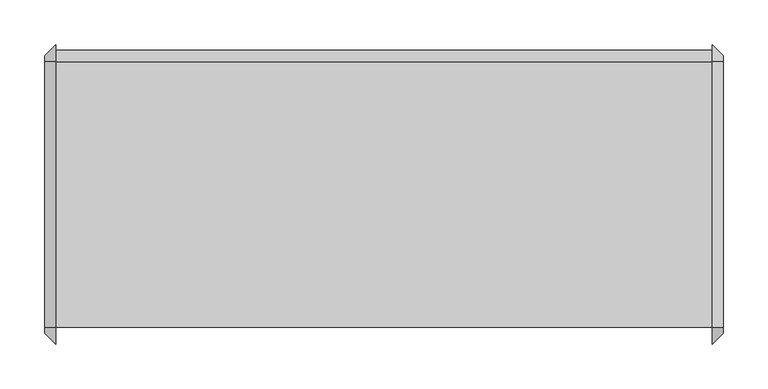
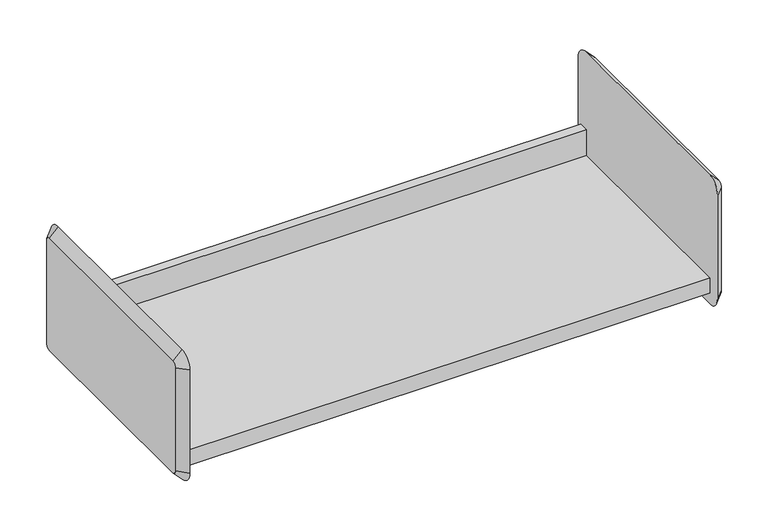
"""IFC4 building model written with IfcOpenShell, lengths in millimetres: furniture geometry."""

from ifc_helpers import new_model, si_unit, frame, origin, place, context, project, spatial, polyline, circle_curve, outline, extrude, source, transform, mapped, element, save
from ifc_brep_helpers import plane_surface, revolved_surface, advanced_brep


def furniture_05aa910b(model_context):
    return source(origin(), model_context, "Body", "SolidModel", [
        extrude(outline(polyline([(-136.525, 1415.67408), (161.925, 1415.67408), (161.925, 1453.77408), (174.625, 1453.77408), (174.625, 1450.59908), (165.1, 1450.59908), (165.1, 1412.49908), (-133.35, 1412.49908), (-133.35, 1393.44908), (-136.525, 1393.44908), (-136.525, 1415.67408)])), frame((-492.2420045, 0.0, 0.0), z_axis=(1.0, 0.0, 0.0), x_axis=(0.0, 1.0, 0.0)), (0.0, 0.0, 1.0), 736.6),
        advanced_brep(
        [(257.0579955, 161.925, 1555.37408), (257.0579955, -136.525, 1555.37408), (257.0579955, -142.875, 1549.02408), (257.0579955, -142.875, 1396.62408), (257.0579955, -136.525, 1390.27408), (257.0579955, 161.925, 1390.27408), (257.0579955, 168.275, 1396.62408), (257.0579955, 168.275, 1549.02408), (244.3579955, 161.925, 1568.07408), (244.3579955, 180.975, 1549.02408), (244.3579955, 180.975, 1396.62408), (244.3579955, 161.925, 1377.57408), (244.3579955, -136.525, 1377.57408), (244.3579955, -155.575, 1396.62408), (244.3579955, -155.575, 1549.02408), (244.3579955, -136.525, 1568.07408)],
        [
            (0, 1),
            (1, 2, circle_curve(frame((257.0579955, -136.525, 1549.02408), z_axis=(1.0, 2.0730084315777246e-12, -2.1529444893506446e-12), x_axis=(2.15291077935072e-12, 0.0, 1.0)), 6.35)),
            (2, 3),
            (3, 4, circle_curve(frame((257.0579955, -136.525, 1396.62408), z_axis=(1.0, 2.0596857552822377e-12, 2.06767936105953e-12), x_axis=(2.059647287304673e-12, -1.0, 0.0)), 6.35)),
            (4, 5),
            (5, 6, circle_curve(frame((257.0579955, 161.925, 1396.62408), z_axis=(1.0, 2.0889956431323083e-12, -2.0889956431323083e-12), x_axis=(-2.0890080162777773e-12, 0.0, -1.0)), 6.35)),
            (6, 7),
            (7, 0, circle_curve(frame((257.0579955, 161.925, 1549.02408), z_axis=(1.0, 2.0783375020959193e-12, 2.003730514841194e-12), x_axis=(-2.0783313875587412e-12, 1.0, 0.0)), 6.35)),
            (8, 9, circle_curve(frame((244.3579955, 161.925, 1549.02408), z_axis=(-1.0, -2.0783375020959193e-12, -2.003730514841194e-12), x_axis=(-2.0783313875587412e-12, 1.0, 0.0)), 19.05)),
            (9, 10),
            (10, 11, circle_curve(frame((244.3579955, 161.925, 1396.62408), z_axis=(-1.0, -2.0889956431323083e-12, 2.0889956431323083e-12), x_axis=(-2.0890080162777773e-12, 0.0, -1.0)), 19.05)),
            (11, 12),
            (12, 13, circle_curve(frame((244.3579955, -136.525, 1396.62408), z_axis=(-1.0, -2.0596857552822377e-12, -2.06767936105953e-12), x_axis=(2.059647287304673e-12, -1.0, 0.0)), 19.05)),
            (13, 14),
            (14, 15, circle_curve(frame((244.3579955, -136.525, 1549.02408), z_axis=(-1.0, -2.0730084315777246e-12, 2.1529444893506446e-12), x_axis=(2.15291077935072e-12, 0.0, 1.0)), 19.05)),
            (15, 8),
            (15, 1),
            (0, 8),
            (14, 2),
            (13, 3),
            (12, 4),
            (11, 5),
            (10, 6),
            (9, 7),
        ],
        [
            plane_surface(frame((257.0579955, 12.7, 1472.82408), z_axis=(1.0, 0.0, 0.0), x_axis=(0.0, -1.0, 0.0))),
            plane_surface(frame((244.3579955, 12.7, 1472.82408), z_axis=(-1.0, 0.0, 0.0), x_axis=(0.0, -1.0, 0.0))),
            plane_surface(frame((244.3579955, 12.7, 1568.07408), z_axis=(0.7071067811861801, 0.0, 0.707106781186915), x_axis=(0.0, -1.0, 0.0))),
            revolved_surface(polyline([(257.0579955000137, -136.525, 1555.3740799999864), (244.3579955, -136.525, 1568.07408)]), (263.4079955, -136.525, 1549.02408), (-1.0, -2.0730084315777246e-12, 2.1529444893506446e-12)),
            plane_surface(frame((244.3579955, -155.575, 1472.82408), z_axis=(0.7071067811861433, -0.7071067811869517, 0.0), x_axis=(0.0, 0.0, -1.0))),
            revolved_surface(polyline([(257.0579955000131, -142.87499999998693, 1396.62408), (244.35799549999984, -155.57500000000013, 1396.62408)]), (263.4079955, -136.525, 1396.62408), (-1.0, -2.0596857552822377e-12, -2.06767936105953e-12)),
            plane_surface(frame((244.3579955, 12.7, 1377.57408), z_axis=(0.7071067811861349, 0.0, -0.7071067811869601), x_axis=(0.0, 1.0, 0.0))),
            revolved_surface(polyline([(257.0579955, 161.925, 1390.2740800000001), (244.3579954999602, 161.925, 1377.5740799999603)]), (263.4079955, 161.925, 1396.62408), (-1.0, -2.0889956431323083e-12, 2.0889956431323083e-12)),
            plane_surface(frame((244.3579955, 180.975, 1472.82408), z_axis=(0.7071067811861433, 0.7071067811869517, 0.0), x_axis=(0.0, 0.0, 1.0))),
            revolved_surface(polyline([(257.0579955, 168.275, 1549.02408), (244.3579954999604, 180.97500000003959, 1549.02408)]), (263.4079955, 161.925, 1549.02408), (-1.0, -2.0783375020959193e-12, -2.003730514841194e-12)),
        ],
        [
            (0, [[1, 2, 3, 4, 5, 6, 7, 8]]),
            (1, [[9, 10, 11, 12, 13, 14, 15, 16]]),
            (2, [[-16, 17, -1, 18]]),
            (3, [[-15, 19, -2, -17]]),
            (4, [[-14, 20, -3, -19]]),
            (5, [[-13, 21, -4, -20]]),
            (6, [[-12, 22, -5, -21]]),
            (7, [[-11, 23, -6, -22]]),
            (8, [[-10, 24, -7, -23]]),
            (9, [[-9, -18, -8, -24]]),
        ],
    ),
        advanced_brep(
        [(-504.9420045, -136.525, 1555.37408), (-504.9420045, 161.925, 1555.37408), (-504.9420045, 168.275, 1549.02408), (-504.9420045, 168.275, 1396.62408), (-504.9420045, 161.925, 1390.27408), (-504.9420045, -136.525, 1390.27408), (-504.9420045, -142.875, 1396.62408), (-504.9420045, -142.875, 1549.02408), (-492.2420045, -136.525, 1568.07408), (-492.2420045, -155.575, 1549.02408), (-492.2420045, -155.575, 1396.62408), (-492.2420045, -136.525, 1377.57408), (-492.2420045, 161.925, 1377.57408), (-492.2420045, 180.975, 1396.62408), (-492.2420045, 180.975, 1549.02408), (-492.2420045, 161.925, 1568.07408)],
        [
            (0, 1),
            (1, 2, circle_curve(frame((-504.9420045, 161.925, 1549.02408), z_axis=(-1.0, 0.0, 0.0), x_axis=(0.0, 0.0, 1.0)), 6.35)),
            (2, 3),
            (3, 4, circle_curve(frame((-504.9420045, 161.925, 1396.62408), z_axis=(-1.0, 0.0, 0.0), x_axis=(0.0, 1.0, 0.0)), 6.35)),
            (4, 5),
            (5, 6, circle_curve(frame((-504.9420045, -136.525, 1396.62408), z_axis=(-1.0, 0.0, 0.0), x_axis=(0.0, 0.0, -1.0)), 6.35)),
            (6, 7),
            (7, 0, circle_curve(frame((-504.9420045, -136.525, 1549.02408), z_axis=(-1.0, 0.0, 0.0), x_axis=(0.0, -1.0, 0.0)), 6.35)),
            (8, 9, circle_curve(frame((-492.2420045, -136.525, 1549.02408), z_axis=(1.0, 0.0, 0.0), x_axis=(0.0, -1.0, 0.0)), 19.05)),
            (9, 10),
            (10, 11, circle_curve(frame((-492.2420045, -136.525, 1396.62408), z_axis=(1.0, 0.0, 0.0), x_axis=(0.0, 0.0, -1.0)), 19.05)),
            (11, 12),
            (12, 13, circle_curve(frame((-492.2420045, 161.925, 1396.62408), z_axis=(1.0, 0.0, 0.0), x_axis=(0.0, 1.0, 0.0)), 19.05)),
            (13, 14),
            (14, 15, circle_curve(frame((-492.2420045, 161.925, 1549.02408), z_axis=(1.0, 0.0, 0.0), x_axis=(0.0, 0.0, 1.0)), 19.05)),
            (15, 8),
            (15, 1),
            (0, 8),
            (14, 2),
            (13, 3),
            (12, 4),
            (11, 5),
            (10, 6),
            (9, 7),
        ],
        [
            plane_surface(frame((-504.9420045, 12.7, 1472.82408), z_axis=(-1.0, 0.0, 0.0), x_axis=(0.0, -1.0, 0.0))),
            plane_surface(frame((-492.2420045, 12.7, 1472.82408), z_axis=(1.0, 0.0, 0.0), x_axis=(0.0, -1.0, 0.0))),
            plane_surface(frame((-492.2420045, 12.7, 1568.07408), z_axis=(-0.7071067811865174, 0.0, 0.7071067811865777), x_axis=(0.0, 1.0, 0.0))),
            revolved_surface(polyline([(-504.9420045, 161.925, 1555.37408), (-492.2420045, 161.925, 1568.07408)]), (-511.2920045, 161.925, 1549.02408), (1.0, 0.0, 0.0)),
            plane_surface(frame((-492.2420045, 180.975, 1472.82408), z_axis=(-0.7071067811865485, 0.7071067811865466, 0.0), x_axis=(0.0, 0.0, -1.0))),
            revolved_surface(polyline([(-504.9420045, 168.27500000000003, 1396.62408), (-492.2420045, 180.975, 1396.62408)]), (-511.2920045, 161.925, 1396.62408), (1.0, 0.0, 0.0)),
            plane_surface(frame((-492.2420045, 12.7, 1377.57408), z_axis=(-0.7071067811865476, 0.0, -0.7071067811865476), x_axis=(0.0, -1.0, 0.0))),
            revolved_surface(polyline([(-504.9420045, -136.525, 1390.2740800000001), (-492.2420045, -136.525, 1377.57408)]), (-511.2920045, -136.525, 1396.62408), (1.0, 0.0, 0.0)),
            plane_surface(frame((-492.2420045, -155.575, 1472.82408), z_axis=(-0.7071067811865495, -0.7071067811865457, 0.0), x_axis=(0.0, 0.0, 1.0))),
            revolved_surface(polyline([(-504.9420045, -142.87500000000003, 1549.02408), (-492.2420045, -155.575, 1549.02408)]), (-511.2920045, -136.525, 1549.02408), (1.0, 0.0, 0.0)),
        ],
        [
            (0, [[1, 2, 3, 4, 5, 6, 7, 8]]),
            (1, [[9, 10, 11, 12, 13, 14, 15, 16]]),
            (2, [[-16, 17, -1, 18]]),
            (3, [[-15, 19, -2, -17]]),
            (4, [[-14, 20, -3, -19]]),
            (5, [[-13, 21, -4, -20]]),
            (6, [[-12, 22, -5, -21]]),
            (7, [[-11, 23, -6, -22]]),
            (8, [[-10, 24, -7, -23]]),
            (9, [[-9, -18, -8, -24]]),
        ],
    ),
    ])


if __name__ == "__main__":
    model = new_model("IFC4")
    model_context = context("Model", 3, world=origin())
    ifc_project = project(units=[si_unit("LENGTHUNIT", "METRE", prefix="MILLI")], contexts=[model_context])
    site = spatial("IfcSite", under=ifc_project)
    building = spatial("IfcBuilding", under=site)
    placement = place(None, origin())
    furniture_shape = furniture_05aa910b(model_context)
    element("IfcFurniture", 1, ObjectType="HermanMiller_ActionOffice_A3220_B-StyleStorageDisplay : Shelf 13\"D x 30\"W", at=placement, inside=building, context=model_context, shape_type="MappedRepresentation", body=[
        mapped(furniture_shape, transform((0.0, 0.0, 0.0), x_axis=(1.0, 0.0, 0.0), y_axis=(0.0, 1.0, 0.0), z_axis=(0.0, 0.0, 1.0))),
    ])
    save(model, "model.ifc")
